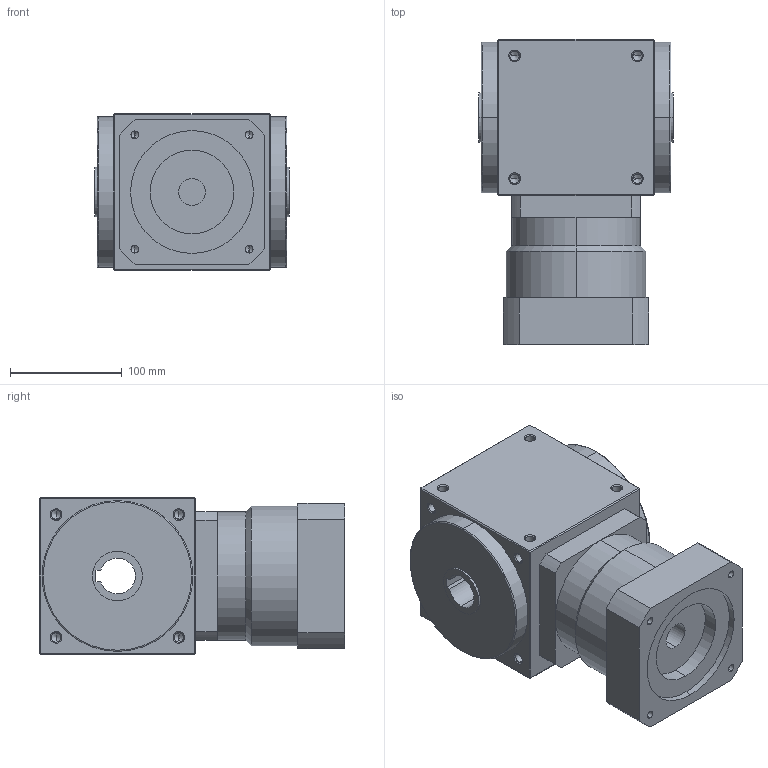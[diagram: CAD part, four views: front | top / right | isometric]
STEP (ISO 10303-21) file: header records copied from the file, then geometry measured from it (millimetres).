
FILE_DESCRIPTION (( 'STEP AP214' ), '1' );
FILE_NAME ('AT140-FH-L1--24-110-145-m8.STEP', '2020-05-15T03:01:12', ( 'User' ), ( 'Far123' ), 'SwSTEP 2.0', 'SolidWorks 2015', '' );
FILE_SCHEMA (( 'AUTOMOTIVE_DESIGN' ));
Length unit declared in the file: millimetre
Products named in the file (1): AT140-FH-L1--24-110-145-m8
Bounding box: 174 x 273.5 x 140 mm (x, y, z)
Volume: 4652045.7 mm3; surface area: 233890 mm2
Topology: 1 solids, 1 shells, 261 faces, 656 edges, 358 vertices
Faces by surface type: cylinder 117, cone 90, plane 50, torus 4
Entity records: 8256 total; most frequent: CARTESIAN_POINT 1564, DIRECTION 1224, ORIENTED_EDGE 1216, EDGE_CURVE 608, AXIS2_PLACEMENT_3D 466, VERTEX_POINT 358, EDGE_LOOP 296, VECTOR 292
